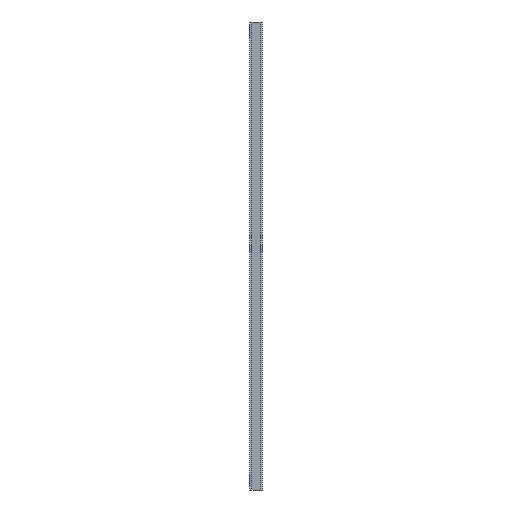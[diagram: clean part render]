
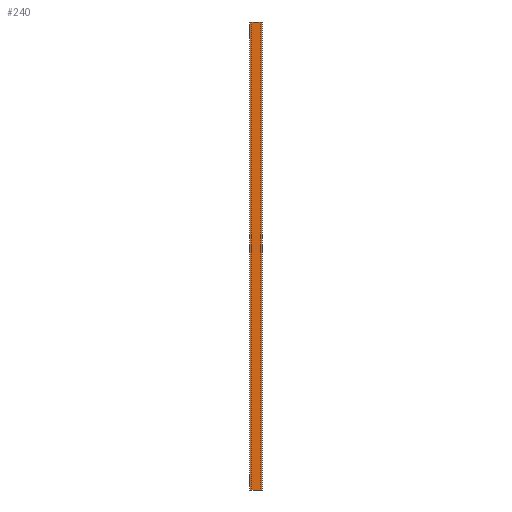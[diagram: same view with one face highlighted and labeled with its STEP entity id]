
A CAD part, left-side view. The second image highlights one B-rep face of the part: STEP entity #240.
In plain terms, the highlighted planar face has unit normal (-1, 0, 0).
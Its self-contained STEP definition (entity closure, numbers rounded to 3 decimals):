
#17 = CARTESIAN_POINT ( 'NONE',  ( -8., 0., 479. ) ) ;
#108 = DIRECTION ( 'NONE',  ( 0., 0., -1. ) ) ;
#114 = VERTEX_POINT ( 'NONE', #1510 ) ;
#123 = ORIENTED_EDGE ( 'NONE', *, *, #1323, .F. ) ;
#128 = CARTESIAN_POINT ( 'NONE',  ( -8., 0., 479. ) ) ;
#131 = ORIENTED_EDGE ( 'NONE', *, *, #421, .T. ) ;
#184 = LINE ( 'NONE', #736, #1483 ) ;
#196 = EDGE_CURVE ( 'NONE', #206, #114, #856, .T. ) ;
#206 = VERTEX_POINT ( 'NONE', #477 ) ;
#212 = VERTEX_POINT ( 'NONE', #1105 ) ;
#220 = VERTEX_POINT ( 'NONE', #128 ) ;
#240 = ADVANCED_FACE ( 'NONE', ( #821 ), #415, .T. ) ;
#308 = DIRECTION ( 'NONE',  ( 0., -1., 0. ) ) ;
#314 = LINE ( 'NONE', #841, #484 ) ;
#332 = ORIENTED_EDGE ( 'NONE', *, *, #545, .F. ) ;
#354 = CARTESIAN_POINT ( 'NONE',  ( -8., 0., 479. ) ) ;
#415 = PLANE ( 'NONE',  #1761 ) ;
#421 = EDGE_CURVE ( 'NONE', #212, #633, #1036, .T. ) ;
#446 = EDGE_CURVE ( 'NONE', #220, #1578, #1319, .T. ) ;
#474 = ORIENTED_EDGE ( 'NONE', *, *, #446, .F. ) ;
#477 = CARTESIAN_POINT ( 'NONE',  ( -8., 12.5, 479. ) ) ;
#484 = VECTOR ( 'NONE', #1283, 1000. ) ;
#545 = EDGE_CURVE ( 'NONE', #1225, #1344, #184, .T. ) ;
#583 = CARTESIAN_POINT ( 'NONE',  ( -8., 9.3, 0. ) ) ;
#620 = ORIENTED_EDGE ( 'NONE', *, *, #196, .T. ) ;
#626 = VECTOR ( 'NONE', #976, 1000. ) ;
#633 = VERTEX_POINT ( 'NONE', #845 ) ;
#651 = EDGE_CURVE ( 'NONE', #1225, #1578, #1685, .T. ) ;
#709 = LINE ( 'NONE', #1389, #626 ) ;
#727 = DIRECTION ( 'NONE',  ( 0., 1., 0. ) ) ;
#736 = CARTESIAN_POINT ( 'NONE',  ( -8., 0., 0. ) ) ;
#776 = CARTESIAN_POINT ( 'NONE',  ( -8., 3.2, 0. ) ) ;
#782 = VECTOR ( 'NONE', #108, 1000. ) ;
#783 = LINE ( 'NONE', #1579, #1474 ) ;
#821 = FACE_OUTER_BOUND ( 'NONE', #1386, .T. ) ;
#826 = VECTOR ( 'NONE', #865, 1000. ) ;
#841 = CARTESIAN_POINT ( 'NONE',  ( -8., 0., 479. ) ) ;
#845 = CARTESIAN_POINT ( 'NONE',  ( -8., 9.3, 479. ) ) ;
#856 = LINE ( 'NONE', #1144, #826 ) ;
#865 = DIRECTION ( 'NONE',  ( 0., 0., -1. ) ) ;
#902 = DIRECTION ( 'NONE',  ( 0., 1., 0. ) ) ;
#948 = ORIENTED_EDGE ( 'NONE', *, *, #1538, .F. ) ;
#976 = DIRECTION ( 'NONE',  ( 0., 1., 0. ) ) ;
#1036 = LINE ( 'NONE', #354, #1517 ) ;
#1105 = CARTESIAN_POINT ( 'NONE',  ( -8., 3.2, 479. ) ) ;
#1114 = DIRECTION ( 'NONE',  ( 0., 0., 1. ) ) ;
#1130 = EDGE_CURVE ( 'NONE', #633, #206, #783, .T. ) ;
#1144 = CARTESIAN_POINT ( 'NONE',  ( -8., 12.5, 479. ) ) ;
#1163 = DIRECTION ( 'NONE',  ( 0., 1., 0. ) ) ;
#1225 = VERTEX_POINT ( 'NONE', #776 ) ;
#1283 = DIRECTION ( 'NONE',  ( 0., -1., 0. ) ) ;
#1319 = LINE ( 'NONE', #1338, #782 ) ;
#1323 = EDGE_CURVE ( 'NONE', #212, #220, #314, .T. ) ;
#1332 = CARTESIAN_POINT ( 'NONE',  ( -8., 0., 0. ) ) ;
#1338 = CARTESIAN_POINT ( 'NONE',  ( -8., 0., 479. ) ) ;
#1344 = VERTEX_POINT ( 'NONE', #583 ) ;
#1382 = DIRECTION ( 'NONE',  ( -1., 0., 0. ) ) ;
#1386 = EDGE_LOOP ( 'NONE', ( #332, #1713, #474, #123, #131, #1707, #620, #948 ) ) ;
#1389 = CARTESIAN_POINT ( 'NONE',  ( -8., 0., 0. ) ) ;
#1412 = CARTESIAN_POINT ( 'NONE',  ( -8., 0., 0. ) ) ;
#1474 = VECTOR ( 'NONE', #1163, 1000. ) ;
#1483 = VECTOR ( 'NONE', #727, 1000. ) ;
#1510 = CARTESIAN_POINT ( 'NONE',  ( -8., 12.5, 0. ) ) ;
#1517 = VECTOR ( 'NONE', #902, 1000. ) ;
#1538 = EDGE_CURVE ( 'NONE', #1344, #114, #709, .T. ) ;
#1578 = VERTEX_POINT ( 'NONE', #1332 ) ;
#1579 = CARTESIAN_POINT ( 'NONE',  ( -8., 12.5, 479. ) ) ;
#1685 = LINE ( 'NONE', #1412, #1762 ) ;
#1707 = ORIENTED_EDGE ( 'NONE', *, *, #1130, .T. ) ;
#1713 = ORIENTED_EDGE ( 'NONE', *, *, #651, .T. ) ;
#1761 = AXIS2_PLACEMENT_3D ( 'NONE', #17, #1382, #1114 ) ;
#1762 = VECTOR ( 'NONE', #308, 1000. ) ;
